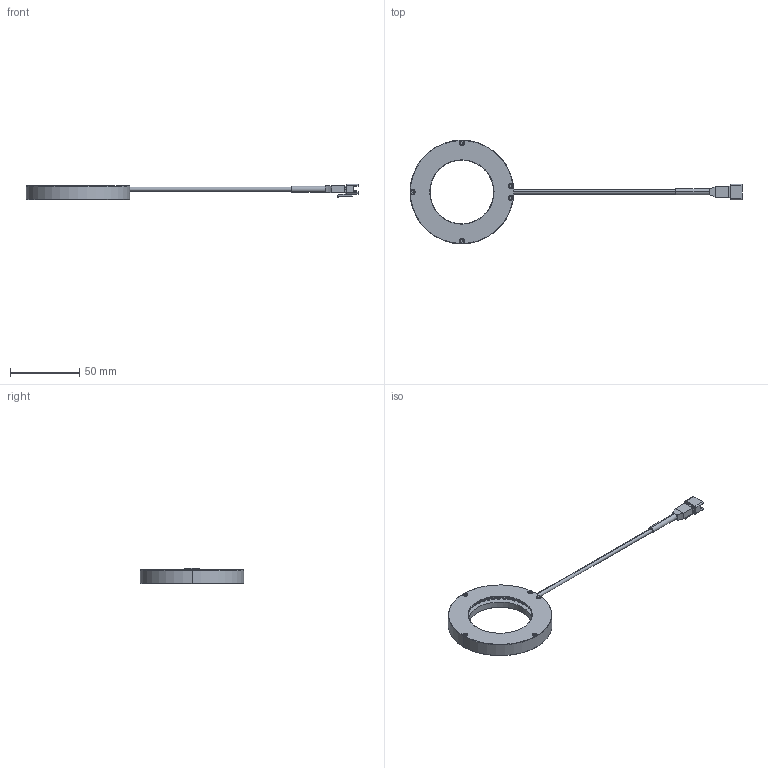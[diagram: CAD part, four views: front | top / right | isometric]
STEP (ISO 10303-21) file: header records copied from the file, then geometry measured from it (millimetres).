
FILE_DESCRIPTION (( 'STEP AP203' ), '1' );
FILE_NAME ('TMR1007D101A_VTWL-HR4675.STEP', '2021-08-06T02:25:22', ( '' ), ( '' ), 'SwSTEP 2.0', 'SolidWorks 2020', '' );
FILE_SCHEMA (( 'CONFIG_CONTROL_DESIGN' ));
Length unit declared in the file: millimetre
Products named in the file (1): TMR1007D101A_VTWL-HR4675
Bounding box: 240 x 75 x 11.1 mm (x, y, z)
Volume: 26186.1 mm3; surface area: 17807.9 mm2
Topology: 50 solids, 50 shells, 1155 faces, 2868 edges, 1796 vertices
Faces by surface type: plane 781, cylinder 254, sphere 84, cone 28, bspline 4, torus 4
Entity records: 32672 total; most frequent: CARTESIAN_POINT 5896, DIRECTION 5555, ORIENTED_EDGE 5400, EDGE_CURVE 2700, VECTOR 2053, LINE 2053, AXIS2_PLACEMENT_3D 1751, VERTEX_POINT 1712
